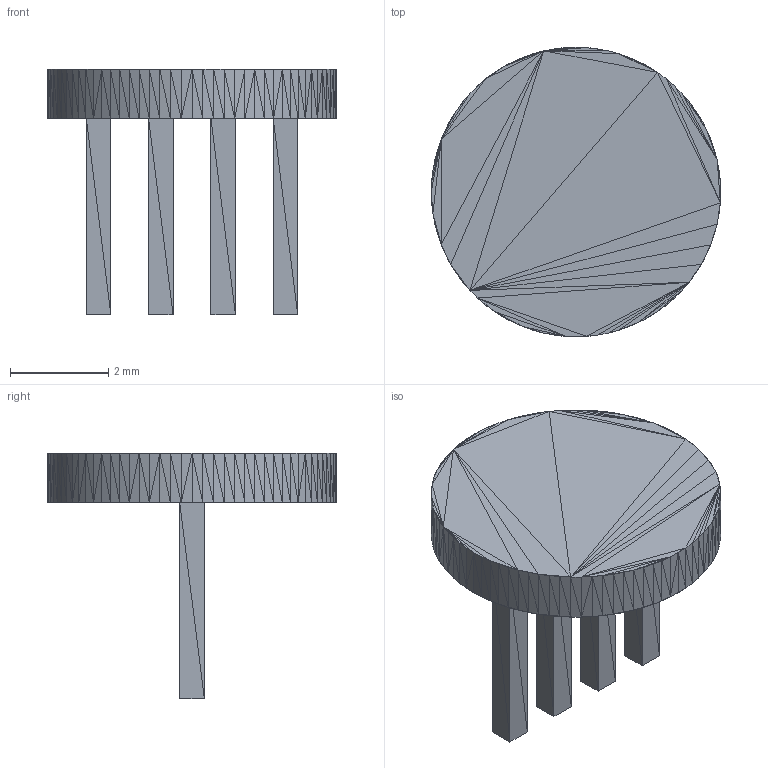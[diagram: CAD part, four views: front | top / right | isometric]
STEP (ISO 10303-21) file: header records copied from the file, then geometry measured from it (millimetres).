
FILE_DESCRIPTION(('Open CASCADE Model'),'2;1');
FILE_NAME('Open CASCADE Shape Model','2026-09-08T12:29:54',('Author'),( 'Open CASCADE'),'Open CASCADE STEP processor 7.7','Open CASCADE 7.7' ,'Unknown');
FILE_SCHEMA(('AUTOMOTIVE_DESIGN { 1 0 10303 214 1 1 1 1 }'));
Length unit declared in the file: millimetre
Products named in the file (6): Open CASCADE STEP translator 7.7 5; Open CASCADE STEP translator 7.7 5.1; Open CASCADE STEP translator 7.7 5.2; Open CASCADE STEP translator 7.7 5.3; Open CASCADE STEP translator 7.7 5.4; Open CASCADE STEP translator 7.7 5.5
Assembly tree (5 placements, depth 2):
  Open CASCADE STEP translator 7.7 5
    Open CASCADE STEP translator 7.7 5.1
    Open CASCADE STEP translator 7.7 5.2
    Open CASCADE STEP translator 7.7 5.3
    Open CASCADE STEP translator 7.7 5.4
    Open CASCADE STEP translator 7.7 5.5
Bounding box: 5.9 x 5.9 x 5 mm (x, y, z)
Volume: 31.3 mm3; surface area: 107.2 mm2
Topology: 5 solids, 5 shells, 380 faces, 570 edges, 200 vertices
Faces by surface type: plane 380
Entity records: 14386 total; most frequent: CARTESIAN_POINT 2866, DIRECTION 1912, ORIENTED_EDGE 1140, LINE 1140, VECTOR 1140, PCURVE 1140, DEFINITIONAL_REPRESENTATION 1140, EDGE_CURVE 570
